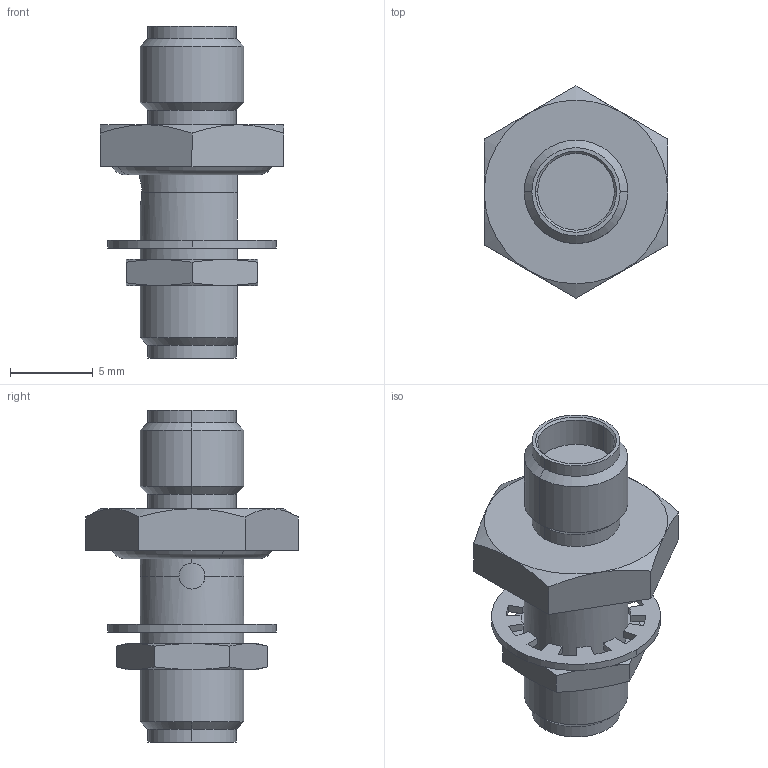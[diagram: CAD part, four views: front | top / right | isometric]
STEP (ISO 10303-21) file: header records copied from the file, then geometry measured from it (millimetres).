
FILE_DESCRIPTION (( 'STEP AP214' ), '1' );
FILE_NAME ('SF2990-6002.STEP', '2016-02-08T15:51:56', ( '' ), ( '' ), 'SwSTEP 2.0', 'SolidWorks 2015', '' );
FILE_SCHEMA (( 'AUTOMOTIVE_DESIGN' ));
Length unit declared in the file: inch
Products named in the file (1): SF2990-6002
Bounding box: 11.1 x 12.82 x 20.07 mm (x, y, z)
Volume: 761.5 mm3; surface area: 1085.5 mm2
Topology: 3 solids, 3 shells, 140 faces, 349 edges, 219 vertices
Faces by surface type: cylinder 53, plane 51, cone 32, torus 4
Entity records: 6168 total; most frequent: CARTESIAN_POINT 963, DIRECTION 715, ORIENTED_EDGE 698, EDGE_CURVE 349, AXIS2_PLACEMENT_3D 275, VERTEX_POINT 219, VECTOR 165, LINE 165
